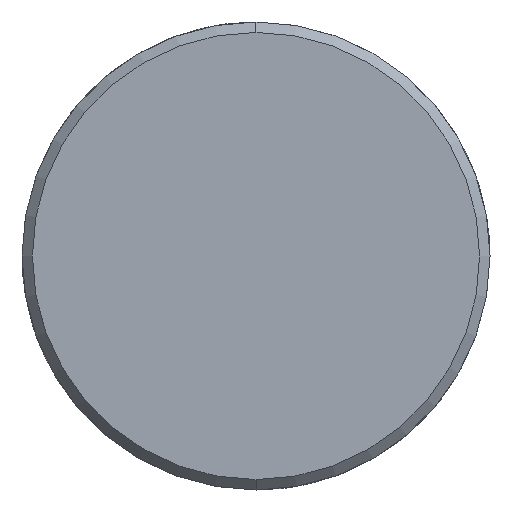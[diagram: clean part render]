
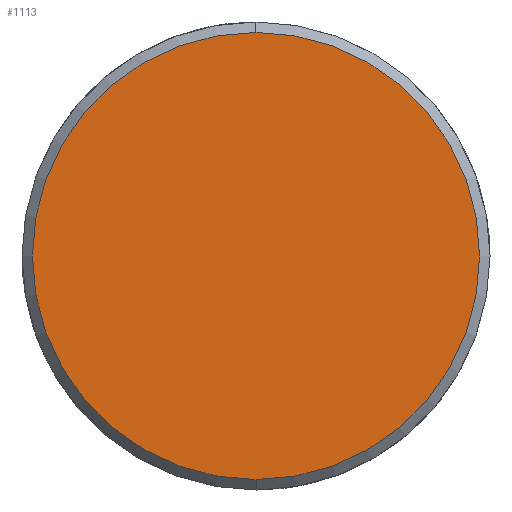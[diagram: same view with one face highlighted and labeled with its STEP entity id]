
A CAD part, left-side view. The second image highlights one B-rep face of the part: STEP entity #1113.
In plain terms, the highlighted planar face has unit normal (-1, 0, 0).
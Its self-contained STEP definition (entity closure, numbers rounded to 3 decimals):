
#1045=CARTESIAN_POINT('Vertex',(-7.,0.,-21.5)) ;
#1048=CARTESIAN_POINT('Axis2P3D Location',(-7.,0.,0.)) ;
#1052=CARTESIAN_POINT('Vertex',(-7.,21.5,0.)) ;
#1055=CARTESIAN_POINT('Axis2P3D Location',(-7.,0.,0.)) ;
#1059=CARTESIAN_POINT('Vertex',(-7.,0.,21.5)) ;
#1081=CARTESIAN_POINT('Axis2P3D Location',(-7.,0.,0.)) ;
#1085=CARTESIAN_POINT('Vertex',(-7.,-21.5,0.)) ;
#1088=CARTESIAN_POINT('Axis2P3D Location',(-7.,0.,0.)) ;
#1102=CARTESIAN_POINT('Axis2P3D Location',(-7.,0.,0.)) ;
#1049=DIRECTION('Axis2P3D Direction',(1.,0.,-0.)) ;
#1056=DIRECTION('Axis2P3D Direction',(1.,0.,-0.)) ;
#1082=DIRECTION('Axis2P3D Direction',(1.,0.,-0.)) ;
#1089=DIRECTION('Axis2P3D Direction',(1.,0.,-0.)) ;
#1103=DIRECTION('Axis2P3D Direction',(1.,0.,-0.)) ;
#1104=DIRECTION('Axis2P3D XDirection',(-0.,0.,-1.)) ;
#1050=AXIS2_PLACEMENT_3D('Circle Axis2P3D',#1048,#1049,$) ;
#1057=AXIS2_PLACEMENT_3D('Circle Axis2P3D',#1055,#1056,$) ;
#1083=AXIS2_PLACEMENT_3D('Circle Axis2P3D',#1081,#1082,$) ;
#1090=AXIS2_PLACEMENT_3D('Circle Axis2P3D',#1088,#1089,$) ;
#1105=AXIS2_PLACEMENT_3D('Plane Axis2P3D',#1102,#1103,#1104) ;
#1108=ORIENTED_EDGE('',*,*,#1054,.F.) ;
#1109=ORIENTED_EDGE('',*,*,#1092,.F.) ;
#1110=ORIENTED_EDGE('',*,*,#1087,.F.) ;
#1111=ORIENTED_EDGE('',*,*,#1061,.F.) ;
#1113=ADVANCED_FACE('351-32X146X200',(#1112),#1106,.F.) ;
#1051=CIRCLE('generated circle',#1050,21.5) ;
#1058=CIRCLE('generated circle',#1057,21.5) ;
#1084=CIRCLE('generated circle',#1083,21.5) ;
#1091=CIRCLE('generated circle',#1090,21.5) ;
#1054=EDGE_CURVE('',#1046,#1053,#1051,.T.) ;
#1061=EDGE_CURVE('',#1053,#1060,#1058,.T.) ;
#1087=EDGE_CURVE('',#1060,#1086,#1084,.T.) ;
#1092=EDGE_CURVE('',#1086,#1046,#1091,.T.) ;
#1107=EDGE_LOOP('',(#1108,#1109,#1110,#1111)) ;
#1112=FACE_OUTER_BOUND('',#1107,.T.) ;
#1106=PLANE('Plane',#1105) ;
#1046=VERTEX_POINT('',#1045) ;
#1053=VERTEX_POINT('',#1052) ;
#1060=VERTEX_POINT('',#1059) ;
#1086=VERTEX_POINT('',#1085) ;
